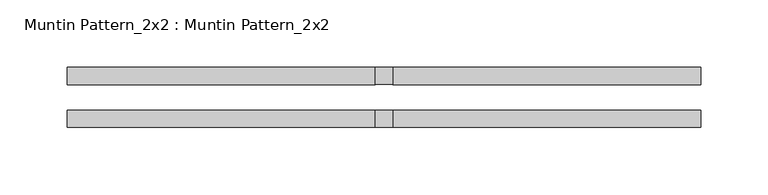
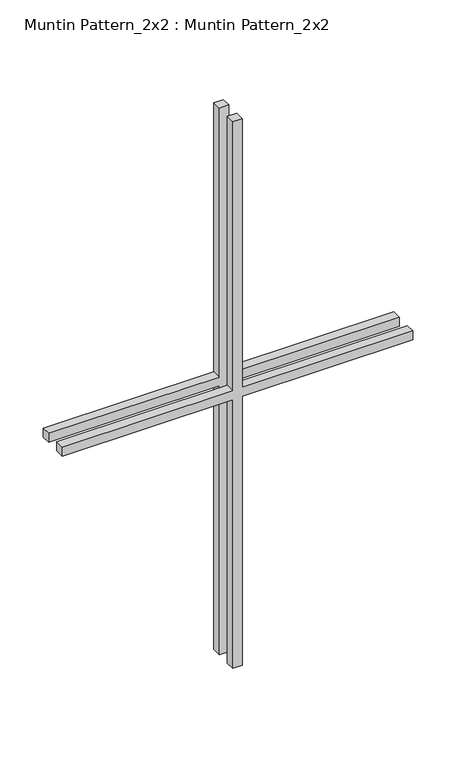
"""IFC4 building model written with IfcOpenShell, lengths in millimetres: proxy geometry, Muntin Pattern_2x2 : Muntin Pattern_2x2."""

from ifc_helpers import new_model, si_unit, frame, origin, place, context, project, spatial, polyline, outline, extrude, source, transform, mapped, element, save


def muntin_pattern_2x2_muntin_pattern_2x2_49143b38(model_context):
    return source(origin(), model_context, "Body", "SweptSolid", [
        extrude(outline(polyline([(393.7, -6.35), (393.7, -234.95), (381.0, -234.95), (381.0, -6.35), (0.0, -6.35), (0.0, 6.35), (381.0, 6.35), (381.0, 234.95), (393.7, 234.95), (393.7, 6.35), (774.7, 6.35), (774.7, -6.35), (393.7, -6.35)])), frame((0.0, -22.225, 0.0), z_axis=(0.0, 1.0, 0.0), x_axis=(0.0, 0.0, 1.0)), (0.0, 0.0, 1.0), 12.7),
        extrude(outline(polyline([(393.7, -6.35), (393.7, -234.95), (381.0, -234.95), (381.0, -6.35), (0.0, -6.35), (0.0, 6.35), (381.0, 6.35), (381.0, 234.95), (393.7, 234.95), (393.7, 6.35), (774.7, 6.35), (774.7, -6.35), (393.7, -6.35)])), frame((0.0, 9.525, 0.0), z_axis=(0.0, 1.0, 0.0), x_axis=(0.0, 0.0, 1.0)), (0.0, 0.0, 1.0), 12.7),
    ])


if __name__ == "__main__":
    model = new_model("IFC4")
    model_context = context("Model", 3, world=origin())
    ifc_project = project(units=[si_unit("LENGTHUNIT", "METRE", prefix="MILLI")], contexts=[model_context])
    site = spatial("IfcSite", under=ifc_project)
    building = spatial("IfcBuilding", under=site)
    placement = place(None, origin())
    muntin_pattern_2x2_muntin_pattern_2x2_shape = muntin_pattern_2x2_muntin_pattern_2x2_49143b38(model_context)
    element("IfcBuildingElementProxy", 1, Name="Muntin Pattern_2x2 : Muntin Pattern_2x2", ObjectType="Muntin Pattern_2x2 : Muntin Pattern_2x2", at=placement, inside=building, context=model_context, shape_type="MappedRepresentation", body=[
        mapped(muntin_pattern_2x2_muntin_pattern_2x2_shape, transform((0.0, 0.0, 0.0), x_axis=(1.0, 0.0, 0.0), y_axis=(0.0, 1.0, 0.0), z_axis=(0.0, 0.0, 1.0))),
    ])
    save(model, "model.ifc")
